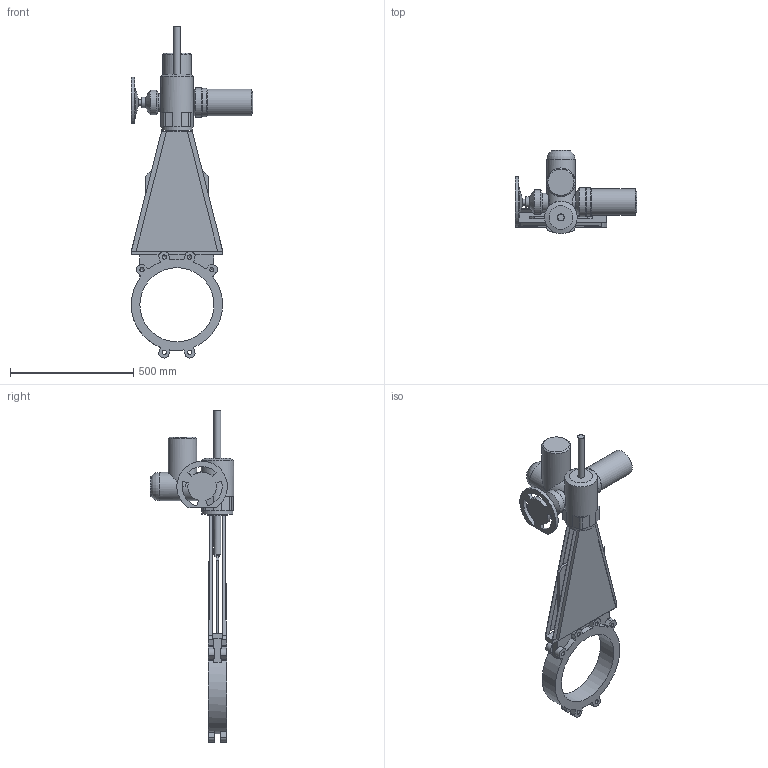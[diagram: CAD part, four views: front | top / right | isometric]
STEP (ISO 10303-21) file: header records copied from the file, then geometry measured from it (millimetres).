
FILE_DESCRIPTION(('STEP AP203'), '1');
FILE_NAME('K51GVA_DN300+MT903.A 10', '', ('UNSPECIFIED'), ('UNSPECIFIED'), 'ASCON STEP Converter 1.6', 'ASCON Math Kernel', '');
FILE_SCHEMA(('CONFIG_CONTROL_DESIGN'));
Length unit declared in the file: millimetre
Bounding box: 494 x 338 x 1344.7 mm (x, y, z)
Volume: 15394093.1 mm3; surface area: 1516110.3 mm2
Topology: 1 solids, 1 shells, 276 faces, 756 edges, 489 vertices
Faces by surface type: plane 162, cylinder 95, cone 18, torus 1
Full cylindrical faces by diameter (mm): 8.5 x4, 12 x4, 17.294 x12, 24 x1, 28 x2, 42 x1, 66 x1, 72 x1, 80 x2, 100 x1, 108 x1, 114 x1, 115 x1, 116 x1, 119 x1, 125 x1, 132 x1, 300 x1
Entity records: 11777 total; most frequent: CARTESIAN_POINT 2591, DIRECTION 1463, ORIENTED_EDGE 1382, EDGE_CURVE 691, AXIS2_PLACEMENT_3D 514, VERTEX_POINT 481, LINE 435, VECTOR 435
